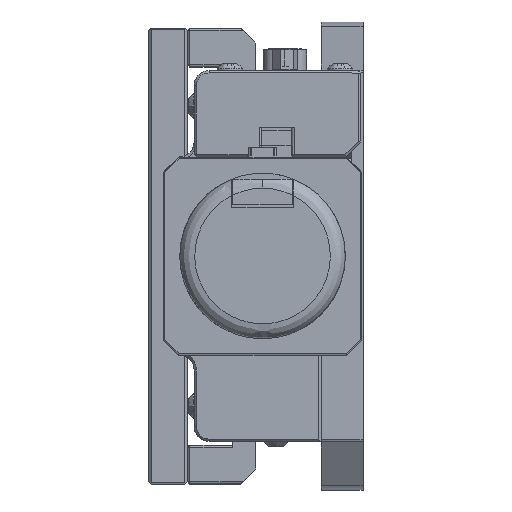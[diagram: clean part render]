
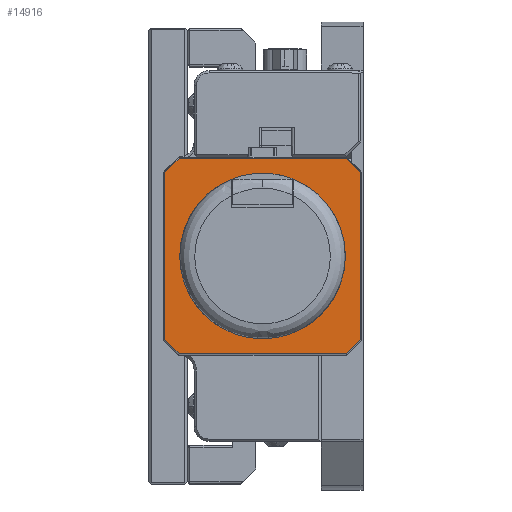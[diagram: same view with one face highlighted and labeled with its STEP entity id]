
A CAD part, left-side view. The second image highlights one B-rep face of the part: STEP entity #14916.
In plain terms, the highlighted planar face has unit normal (-1, 0, 0).
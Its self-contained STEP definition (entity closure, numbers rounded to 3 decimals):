
#716 = EDGE_CURVE ( 'NONE', #73463, #29193, #75275, .T. ) ;
#854 = EDGE_CURVE ( 'NONE', #38181, #73463, #9140, .T. ) ;
#990 = EDGE_CURVE ( 'NONE', #68543, #38181, #79481, .T. ) ;
#1090 = EDGE_CURVE ( 'NONE', #63950, #68543, #18685, .T. ) ;
#1344 = EDGE_CURVE ( 'NONE', #31733, #63950, #13457, .T. ) ;
#1449 = EDGE_CURVE ( 'NONE', #17684, #31733, #22764, .T. ) ;
#1586 = EDGE_CURVE ( 'NONE', #2229, #17684, #65643, .T. ) ;
#1861 = EDGE_CURVE ( 'NONE', #29193, #2229, #15414, .T. ) ;
#2229 = VERTEX_POINT ( 'NONE', #83443 ) ;
#3855 = VECTOR ( 'NONE', #28203, 1000. ) ;
#4914 = VECTOR ( 'NONE', #70771, 1000. ) ;
#7364 = CARTESIAN_POINT ( 'NONE',  ( -120.65, 0.318, 18.542 ) ) ;
#7527 = DIRECTION ( 'NONE',  ( 0., 1., 0. ) ) ;
#8444 = ORIENTED_EDGE ( 'NONE', *, *, #1861, .F. ) ;
#8844 = CARTESIAN_POINT ( 'NONE',  ( -120.65, 3.598, 18.542 ) ) ;
#9140 = LINE ( 'NONE', #7364, #42545 ) ;
#13457 = LINE ( 'NONE', #76956, #29028 ) ;
#14916 = ADVANCED_FACE ( 'NONE', ( #21753 ), #48620, .T. ) ;
#14996 = CARTESIAN_POINT ( 'NONE',  ( -120.65, 41.974, 21.568 ) ) ;
#15414 = LINE ( 'NONE', #44939, #62435 ) ;
#16351 = DIRECTION ( 'NONE',  ( 0., 0., -1. ) ) ;
#17684 = VERTEX_POINT ( 'NONE', #69864 ) ;
#18685 = LINE ( 'NONE', #82138, #36312 ) ;
#19095 = DIRECTION ( 'NONE',  ( 0., 0.707, -0.707 ) ) ;
#21753 = FACE_OUTER_BOUND ( 'NONE', #68539, .T. ) ;
#22764 = LINE ( 'NONE', #70657, #4914 ) ;
#27336 = CARTESIAN_POINT ( 'NONE',  ( -120.65, 40.46, 20.055 ) ) ;
#27397 = ORIENTED_EDGE ( 'NONE', *, *, #1586, .F. ) ;
#28203 = DIRECTION ( 'NONE',  ( 0., 0.707, 0.707 ) ) ;
#28379 = ORIENTED_EDGE ( 'NONE', *, *, #1449, .F. ) ;
#29028 = VECTOR ( 'NONE', #76605, 1000. ) ;
#29193 = VERTEX_POINT ( 'NONE', #14996 ) ;
#31733 = VERTEX_POINT ( 'NONE', #76410 ) ;
#35312 = CARTESIAN_POINT ( 'NONE',  ( -120.65, 0.572, 56.918 ) ) ;
#36312 = VECTOR ( 'NONE', #16351, 1000. ) ;
#37837 = ORIENTED_EDGE ( 'NONE', *, *, #1344, .F. ) ;
#38181 = VERTEX_POINT ( 'NONE', #8844 ) ;
#42545 = VECTOR ( 'NONE', #7527, 1000. ) ;
#43564 = VECTOR ( 'NONE', #19095, 1000. ) ;
#44939 = CARTESIAN_POINT ( 'NONE',  ( -120.65, 41.974, 18.288 ) ) ;
#45200 = DIRECTION ( 'NONE',  ( 0., 0., 1. ) ) ;
#48341 = DIRECTION ( 'NONE',  ( 0., 0., 1. ) ) ;
#48518 = DIRECTION ( 'NONE',  ( -1., 0., 0. ) ) ;
#48620 = PLANE ( 'NONE',  #77105 ) ;
#49273 = ORIENTED_EDGE ( 'NONE', *, *, #1090, .F. ) ;
#49945 = CARTESIAN_POINT ( 'NONE',  ( -120.65, 0.318, 60.198 ) ) ;
#52333 = CARTESIAN_POINT ( 'NONE',  ( -120.65, -18.87, 41.01 ) ) ;
#57836 = CARTESIAN_POINT ( 'NONE',  ( -120.65, 19.505, 79.386 ) ) ;
#62435 = VECTOR ( 'NONE', #45200, 1000. ) ;
#63528 = VECTOR ( 'NONE', #65723, 1000. ) ;
#63950 = VERTEX_POINT ( 'NONE', #35312 ) ;
#65643 = LINE ( 'NONE', #57836, #63528 ) ;
#65723 = DIRECTION ( 'NONE',  ( 0., -0.707, 0.707 ) ) ;
#68539 = EDGE_LOOP ( 'NONE', ( #80811, #70325, #69309, #49273, #37837, #28379, #27397, #8444 ) ) ;
#68543 = VERTEX_POINT ( 'NONE', #78440 ) ;
#69277 = CARTESIAN_POINT ( 'NONE',  ( -120.65, 38.947, 18.542 ) ) ;
#69309 = ORIENTED_EDGE ( 'NONE', *, *, #990, .F. ) ;
#69864 = CARTESIAN_POINT ( 'NONE',  ( -120.65, 38.947, 59.944 ) ) ;
#70325 = ORIENTED_EDGE ( 'NONE', *, *, #854, .F. ) ;
#70657 = CARTESIAN_POINT ( 'NONE',  ( -120.65, 0.318, 59.944 ) ) ;
#70771 = DIRECTION ( 'NONE',  ( 0., -1., 0. ) ) ;
#73463 = VERTEX_POINT ( 'NONE', #69277 ) ;
#75275 = LINE ( 'NONE', #27336, #3855 ) ;
#76410 = CARTESIAN_POINT ( 'NONE',  ( -120.65, 3.598, 59.944 ) ) ;
#76605 = DIRECTION ( 'NONE',  ( 0., -0.707, -0.707 ) ) ;
#76956 = CARTESIAN_POINT ( 'NONE',  ( -120.65, 2.085, 58.431 ) ) ;
#77105 = AXIS2_PLACEMENT_3D ( 'NONE', #49945, #48518, #48341 ) ;
#78440 = CARTESIAN_POINT ( 'NONE',  ( -120.65, 0.572, 21.568 ) ) ;
#79481 = LINE ( 'NONE', #52333, #43564 ) ;
#80811 = ORIENTED_EDGE ( 'NONE', *, *, #716, .F. ) ;
#82138 = CARTESIAN_POINT ( 'NONE',  ( -120.65, 0.572, 60.198 ) ) ;
#83443 = CARTESIAN_POINT ( 'NONE',  ( -120.65, 41.974, 56.918 ) ) ;
